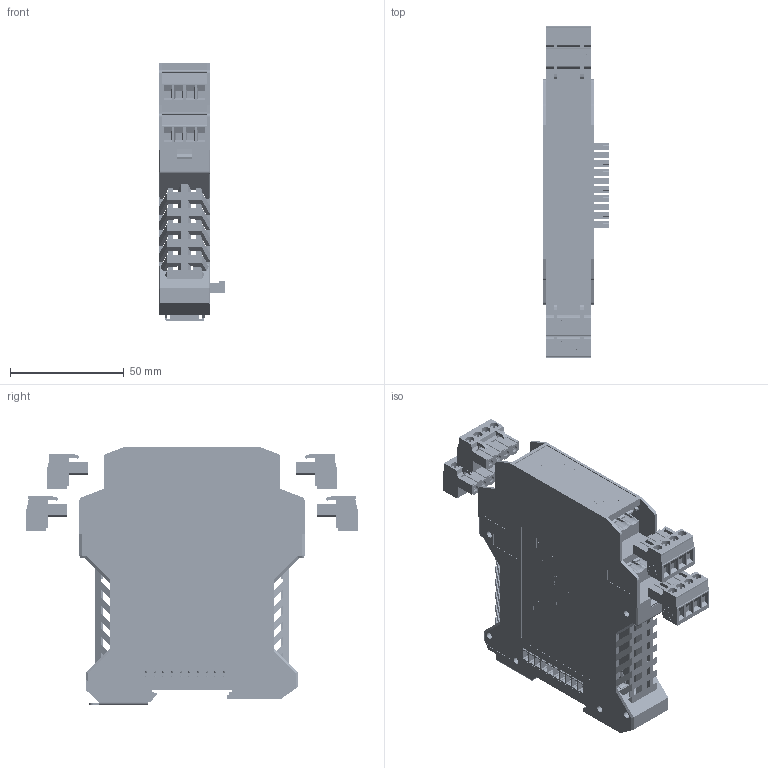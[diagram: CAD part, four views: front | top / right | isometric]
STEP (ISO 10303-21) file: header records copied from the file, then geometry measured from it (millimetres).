
FILE_DESCRIPTION(('STEP AP203'), '1');
FILE_NAME('鍛鍧 BAO-8_', '', ('UNSPECIFIED'), ('UNSPECIFIED'), 'ASCON STEP Converter 1.3', 'ASCON Math Kernel', '');
FILE_SCHEMA(('CONFIG_CONTROL_DESIGN'));
Length unit declared in the file: millimetre
Products named in the file (16): ME_22.5_UTR_H_BUS_10_H.Select__00496319; ME_Verriegelungshaken_H.Select__00446697; ME_22.5_UTL_H_BUS_10_H.Select__00496310; ME_BUS_22.5_MC_10-ST_H.Select__00493208; ME_BUS_FE-CONTACT_H.Select__00437355; Fussriegel_17.5_L30_H.Select__00315466; ME_22_5_OT-MSTBO_H.Select__00273265; MSTBO_2_5_4-G1L_H.Select__00364411; MSTBO_2_5_4-G1R_H.Select__00364505; MSTBT_2.5-4-ST
Assembly tree (21 placements, depth 5):
  (unnamed)
    (unnamed)
      (unnamed)
        (unnamed)
          ME_22.5_UTR_H_BUS_10_H.Select__00496319
          ME_Verriegelungshaken_H.Select__00446697  x2
          ME_22.5_UTL_H_BUS_10_H.Select__00496310
          ME_BUS_22.5_MC_10-ST_H.Select__00493208
          ME_BUS_FE-CONTACT_H.Select__00437355
          Fussriegel_17.5_L30_H.Select__00315466
      (unnamed)
        ME_22_5_OT-MSTBO_H.Select__00273265
        MSTBO_2_5_4-G1L_H.Select__00364411  x2
        MSTBO_2_5_4-G1R_H.Select__00364505  x2
    MSTBT_2.5-4-ST  x4
      MSTBT_2.5-4-ST
Bounding box: 29.1 x 145.9 x 113.6 mm (x, y, z)
Volume: 76886.2 mm3; surface area: 99698.6 mm2
Topology: 19 solids, 21 shells, 17215 faces, 48367 edges, 32087 vertices
Faces by surface type: plane 9940, cylinder 6893, extrusion 352, cone 30
Full cylindrical faces by diameter (mm): 0.813 x3, 0.853 x3, 1.353 x16, 1.4 x32, 1.6 x20, 2 x6, 2.1 x3, 2.8 x32, 3 x12, 3.783 x16, 4 x16
Entity records: 592718 total; most frequent: CARTESIAN_POINT 87349, DIRECTION 82218, ORIENTED_EDGE 81910, EDGE_CURVE 40955, VECTOR 27556, AXIS2_PLACEMENT_3D 27331, LINE 27315, VERTEX_POINT 27265
